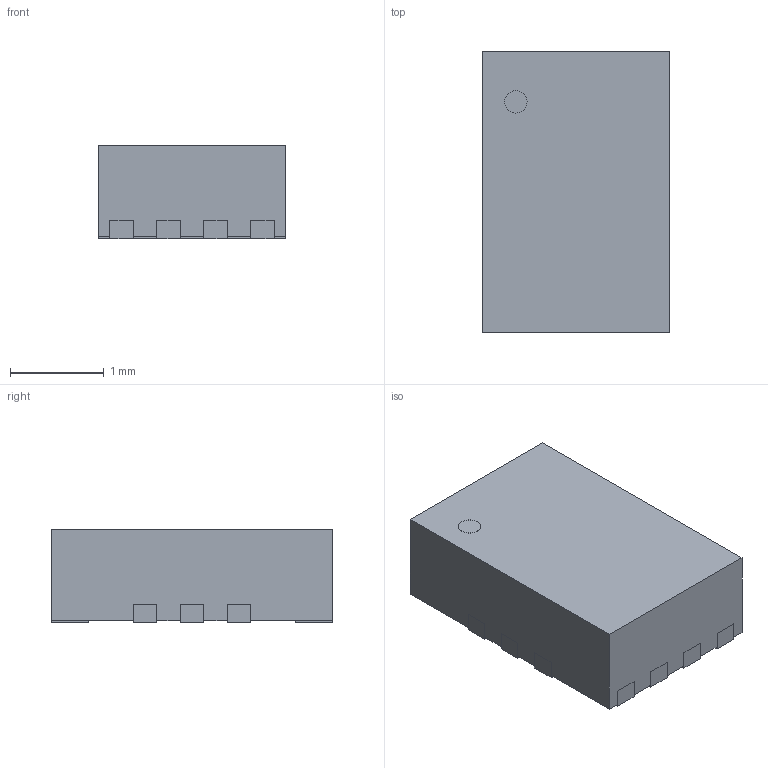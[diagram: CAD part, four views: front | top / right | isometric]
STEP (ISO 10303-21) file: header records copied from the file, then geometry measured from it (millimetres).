
FILE_DESCRIPTION(('Open CASCADE Model'),'2;1');
FILE_NAME('Open CASCADE Shape Model','2026-10-04T11:29:43',('Author'),( 'Open CASCADE'),'Open CASCADE STEP processor 7.9','Open CASCADE 7.9' ,'Unknown');
FILE_SCHEMA(('AUTOMOTIVE_DESIGN { 1 0 10303 214 1 1 1 1 }'));
Length unit declared in the file: millimetre
Products named in the file (4): TI_RGX0011A_Drawing_Envelope; package_body; terminals; illustrative_pin1_index
Assembly tree (3 placements, depth 2):
  TI_RGX0011A_Drawing_Envelope
    package_body
    terminals
    illustrative_pin1_index
Bounding box: 2 x 3 x 1 mm (x, y, z)
Volume: 5.9 mm3; surface area: 34.2 mm2
Topology: 13 solids, 13 shells, 121 faces, 282 edges, 188 vertices
Faces by surface type: plane 119, cylinder 2
Full cylindrical faces by diameter (mm): 0.24 x2
Entity records: 7123 total; most frequent: CARTESIAN_POINT 1219, DIRECTION 1040, LINE 778, VECTOR 778, ORIENTED_EDGE 564, PCURVE 564, DEFINITIONAL_REPRESENTATION 564, EDGE_CURVE 282
